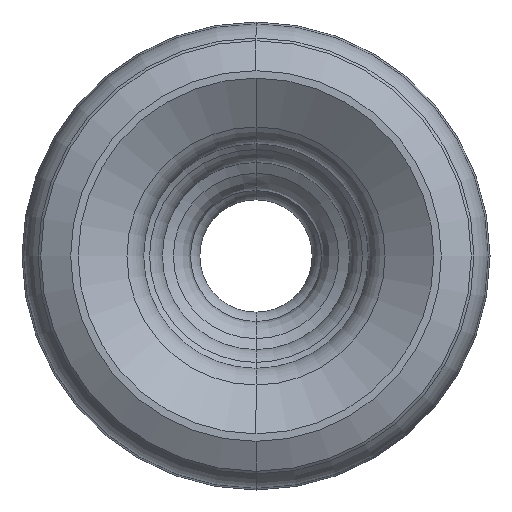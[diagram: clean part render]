
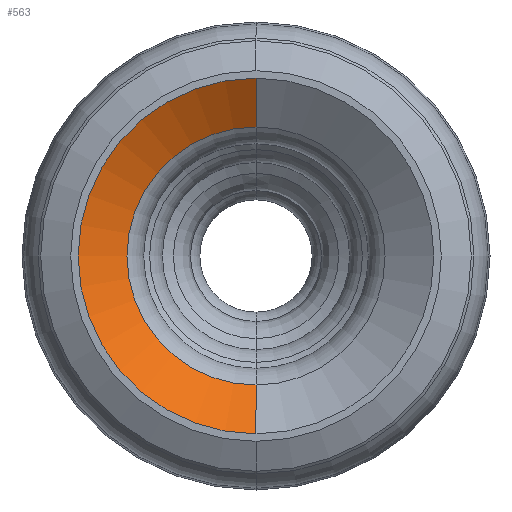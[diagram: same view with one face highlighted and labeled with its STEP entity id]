
A CAD part, front view. The second image highlights one B-rep face of the part: STEP entity #563.
In plain terms, the highlighted conical face has half-angle 56.366 degrees and reference radius 4.75 mm.
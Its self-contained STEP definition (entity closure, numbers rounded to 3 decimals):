
#6 = CIRCLE ( 'NONE', #283, 3.446 ) ;
#49 = CARTESIAN_POINT ( 'NONE',  ( 0., -26.5, 0. ) ) ;
#68 = VECTOR ( 'NONE', #1146, 1000. ) ;
#111 = AXIS2_PLACEMENT_3D ( 'NONE', #49, #416, #228 ) ;
#191 = LINE ( 'NONE', #750, #68 ) ;
#228 = DIRECTION ( 'NONE',  ( 0., 0., -1. ) ) ;
#283 = AXIS2_PLACEMENT_3D ( 'NONE', #1390, #2276, #798 ) ;
#401 = VERTEX_POINT ( 'NONE', #2059 ) ;
#416 = DIRECTION ( 'NONE',  ( 0., -1., 0. ) ) ;
#563 = ADVANCED_FACE ( 'NONE', ( #1405 ), #2260, .F. ) ;
#592 = AXIS2_PLACEMENT_3D ( 'NONE', #944, #1658, #2023 ) ;
#594 = EDGE_CURVE ( 'NONE', #2012, #1921, #6, .T. ) ;
#664 = CARTESIAN_POINT ( 'NONE',  ( 0., -25.633, 3.446 ) ) ;
#750 = CARTESIAN_POINT ( 'NONE',  ( 0., -26.5, 4.75 ) ) ;
#761 = CARTESIAN_POINT ( 'NONE',  ( 0., -26.5, -4.75 ) ) ;
#767 = ORIENTED_EDGE ( 'NONE', *, *, #1693, .F. ) ;
#798 = DIRECTION ( 'NONE',  ( 0., 0., 1. ) ) ;
#944 = CARTESIAN_POINT ( 'NONE',  ( 0., -26.5, 0. ) ) ;
#1125 = LINE ( 'NONE', #761, #1351 ) ;
#1146 = DIRECTION ( 'NONE',  ( 0., -0.554, 0.833 ) ) ;
#1171 = EDGE_CURVE ( 'NONE', #1921, #401, #191, .T. ) ;
#1351 = VECTOR ( 'NONE', #2028, 1000. ) ;
#1390 = CARTESIAN_POINT ( 'NONE',  ( 0., -25.633, 0. ) ) ;
#1405 = FACE_OUTER_BOUND ( 'NONE', #1884, .T. ) ;
#1467 = ORIENTED_EDGE ( 'NONE', *, *, #1171, .T. ) ;
#1587 = ORIENTED_EDGE ( 'NONE', *, *, #2357, .F. ) ;
#1658 = DIRECTION ( 'NONE',  ( 0., 1., 0. ) ) ;
#1693 = EDGE_CURVE ( 'NONE', #2012, #1881, #1125, .T. ) ;
#1737 = ORIENTED_EDGE ( 'NONE', *, *, #594, .T. ) ;
#1773 = CARTESIAN_POINT ( 'NONE',  ( 0., -25.633, -3.446 ) ) ;
#1881 = VERTEX_POINT ( 'NONE', #2145 ) ;
#1884 = EDGE_LOOP ( 'NONE', ( #1737, #1467, #1587, #767 ) ) ;
#1921 = VERTEX_POINT ( 'NONE', #664 ) ;
#2012 = VERTEX_POINT ( 'NONE', #1773 ) ;
#2023 = DIRECTION ( 'NONE',  ( 0., 0., 1. ) ) ;
#2028 = DIRECTION ( 'NONE',  ( 0., -0.554, -0.833 ) ) ;
#2059 = CARTESIAN_POINT ( 'NONE',  ( 0., -26.5, 4.75 ) ) ;
#2069 = CIRCLE ( 'NONE', #592, 4.75 ) ;
#2145 = CARTESIAN_POINT ( 'NONE',  ( 0., -26.5, -4.75 ) ) ;
#2260 = CONICAL_SURFACE ( 'NONE', #111, 4.75, 0.984 ) ;
#2276 = DIRECTION ( 'NONE',  ( 0., 1., 0. ) ) ;
#2357 = EDGE_CURVE ( 'NONE', #1881, #401, #2069, .T. ) ;
